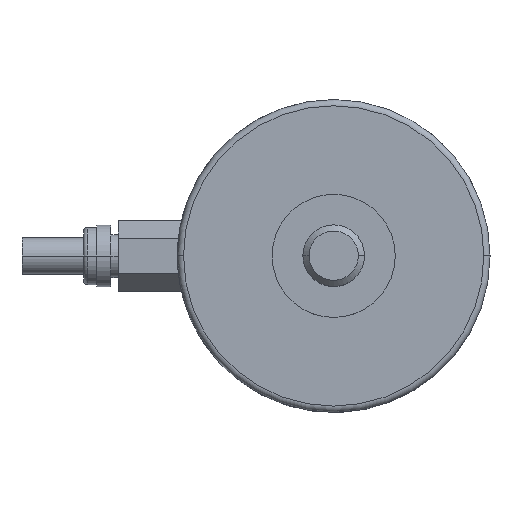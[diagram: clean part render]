
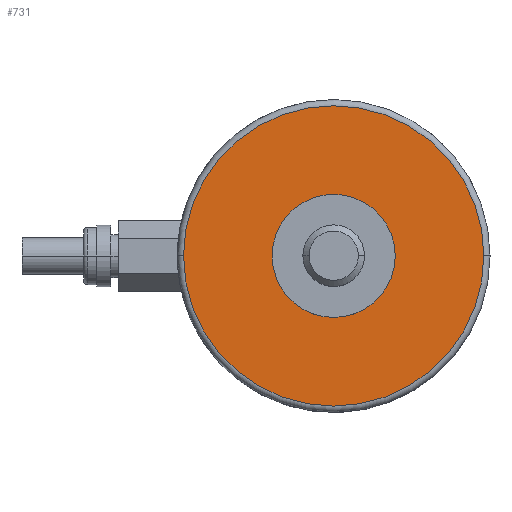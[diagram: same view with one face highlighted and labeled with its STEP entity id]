
A CAD part, top view. The second image highlights one B-rep face of the part: STEP entity #731.
In plain terms, the highlighted planar face has unit normal (0, 0, 1).
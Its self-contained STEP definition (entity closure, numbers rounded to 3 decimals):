
#53 = CIRCLE ( 'NONE', #1215, 5. ) ;
#68 = ORIENTED_EDGE ( 'NONE', *, *, #521, .F. ) ;
#98 = EDGE_CURVE ( 'NONE', #1263, #468, #53, .T. ) ;
#99 = DIRECTION ( 'NONE',  ( 1., 0., 0. ) ) ;
#162 = FACE_OUTER_BOUND ( 'NONE', #296, .T. ) ;
#179 = CARTESIAN_POINT ( 'NONE',  ( 0., 0., 6.5 ) ) ;
#249 = EDGE_CURVE ( 'NONE', #1258, #402, #1052, .T. ) ;
#260 = ORIENTED_EDGE ( 'NONE', *, *, #249, .T. ) ;
#296 = EDGE_LOOP ( 'NONE', ( #260, #1392 ) ) ;
#307 = CARTESIAN_POINT ( 'NONE',  ( 0., 0., 6.5 ) ) ;
#313 = DIRECTION ( 'NONE',  ( 1., 0., 0. ) ) ;
#315 = CARTESIAN_POINT ( 'NONE',  ( 0., 0., 6.5 ) ) ;
#402 = VERTEX_POINT ( 'NONE', #1241 ) ;
#454 = DIRECTION ( 'NONE',  ( 1., 0., 0. ) ) ;
#456 = DIRECTION ( 'NONE',  ( 1., 0., 0. ) ) ;
#468 = VERTEX_POINT ( 'NONE', #1129 ) ;
#521 = EDGE_CURVE ( 'NONE', #468, #1263, #903, .T. ) ;
#731 = ADVANCED_FACE ( 'NONE', ( #162, #900 ), #1493, .T. ) ;
#789 = DIRECTION ( 'NONE',  ( 0., 0., 1. ) ) ;
#836 = CARTESIAN_POINT ( 'NONE',  ( 12.2, 0., 6.5 ) ) ;
#840 = CARTESIAN_POINT ( 'NONE',  ( -5., 0., 6.5 ) ) ;
#900 = FACE_BOUND ( 'NONE', #1391, .T. ) ;
#903 = CIRCLE ( 'NONE', #1118, 5. ) ;
#929 = DIRECTION ( 'NONE',  ( 0., 0., 1. ) ) ;
#938 = AXIS2_PLACEMENT_3D ( 'NONE', #1619, #789, #940 ) ;
#940 = DIRECTION ( 'NONE',  ( 1., 0., 0. ) ) ;
#1052 = CIRCLE ( 'NONE', #1273, 12.2 ) ;
#1118 = AXIS2_PLACEMENT_3D ( 'NONE', #315, #1277, #456 ) ;
#1129 = CARTESIAN_POINT ( 'NONE',  ( 5., 0., 6.5 ) ) ;
#1139 = DIRECTION ( 'NONE',  ( 0., 0., 1. ) ) ;
#1215 = AXIS2_PLACEMENT_3D ( 'NONE', #1747, #929, #99 ) ;
#1241 = CARTESIAN_POINT ( 'NONE',  ( -12.2, 0., 6.5 ) ) ;
#1258 = VERTEX_POINT ( 'NONE', #836 ) ;
#1263 = VERTEX_POINT ( 'NONE', #840 ) ;
#1273 = AXIS2_PLACEMENT_3D ( 'NONE', #307, #1274, #454 ) ;
#1274 = DIRECTION ( 'NONE',  ( 0., 0., 1. ) ) ;
#1277 = DIRECTION ( 'NONE',  ( 0., 0., 1. ) ) ;
#1334 = EDGE_CURVE ( 'NONE', #402, #1258, #1649, .T. ) ;
#1391 = EDGE_LOOP ( 'NONE', ( #1543, #68 ) ) ;
#1392 = ORIENTED_EDGE ( 'NONE', *, *, #1334, .T. ) ;
#1493 = PLANE ( 'NONE',  #938 ) ;
#1543 = ORIENTED_EDGE ( 'NONE', *, *, #98, .F. ) ;
#1619 = CARTESIAN_POINT ( 'NONE',  ( 0., 0., 6.5 ) ) ;
#1623 = AXIS2_PLACEMENT_3D ( 'NONE', #179, #1139, #313 ) ;
#1649 = CIRCLE ( 'NONE', #1623, 12.2 ) ;
#1747 = CARTESIAN_POINT ( 'NONE',  ( 0., 0., 6.5 ) ) ;
